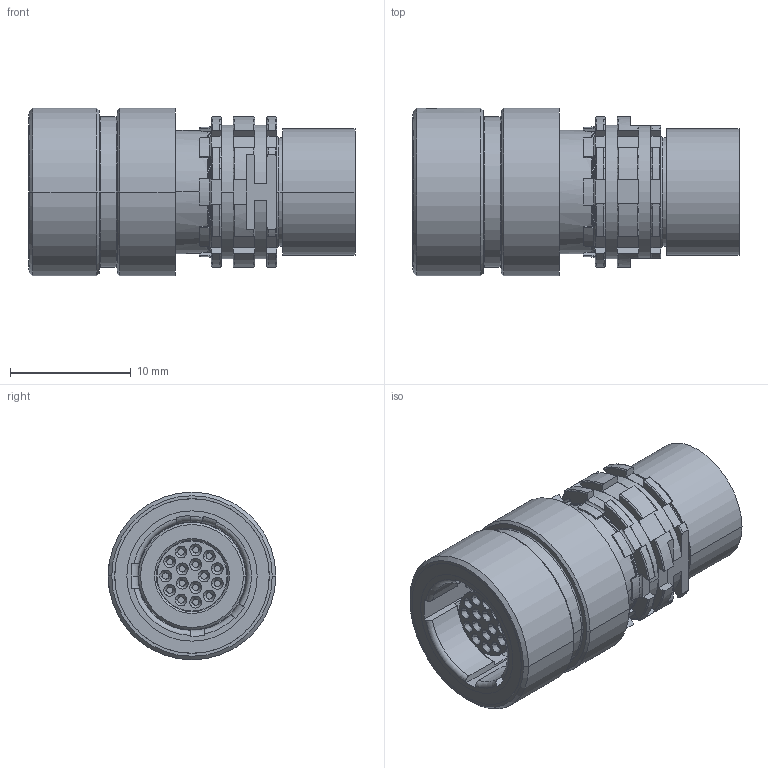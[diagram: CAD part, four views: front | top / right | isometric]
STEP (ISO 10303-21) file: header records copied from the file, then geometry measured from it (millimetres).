
FILE_DESCRIPTION((''),'2;1');
FILE_NAME('K11Y_R-P16WCD0-0000_EXTERN','2020-10-22T08:45:52',('EUnterhaslberger'),(''),'CREO PARAMETRIC BY PTC INC, 2018300','CREO PARAMETRIC BY PTC INC, 2018300','');
FILE_SCHEMA(('AP242_MANAGED_MODEL_BASED_3D_ENGINEERING_MIM_LF { 1 0 10303 442 1 1 4 }'));
Length unit declared in the file: millimetre
Products named in the file (1): K11Y_R-P16WCD0-0000_EXTERN
Bounding box: 27.01 x 13.9 x 13.9 mm (x, y, z)
Volume: 2212.5 mm3; surface area: 3708.1 mm2
Topology: 2 solids, 2 shells, 786 faces, 2182 edges, 1418 vertices
Faces by surface type: plane 283, cylinder 245, cone 141, torus 117
Entity records: 31402 total; most frequent: CARTESIAN_POINT 6540, DIRECTION 4310, ORIENTED_EDGE 4300, EDGE_CURVE 2150, AXIS2_PLACEMENT_3D 1699, VERTEX_POINT 1418, CIRCLE 913, VECTOR 912
